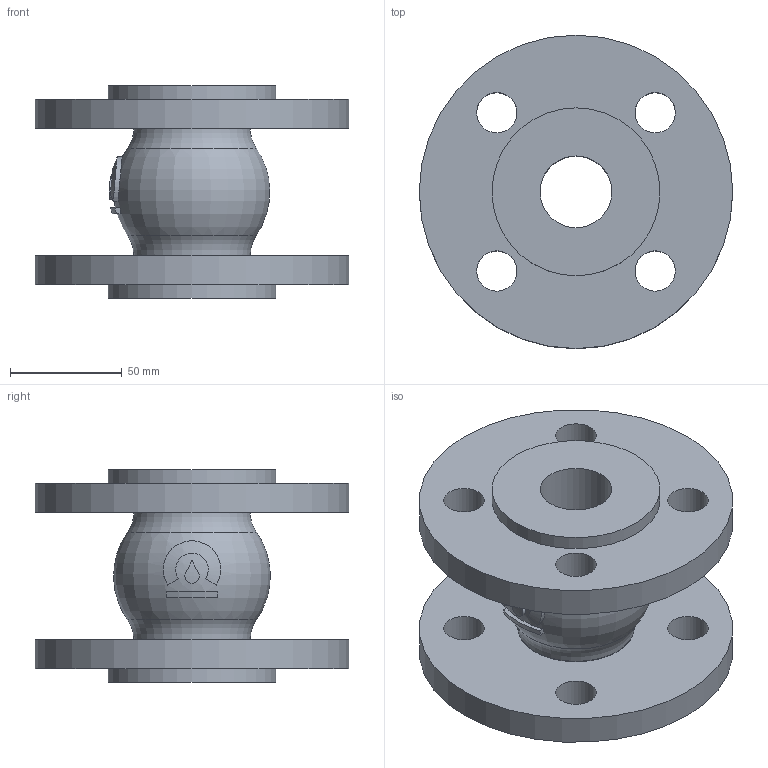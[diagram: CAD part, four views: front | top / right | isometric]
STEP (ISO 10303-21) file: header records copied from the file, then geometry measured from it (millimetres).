
FILE_DESCRIPTION(('STEP AP203'), '1');
FILE_NAME('Êîìïåíñàòîð KMS DN32 PN10_16', '', ('UNSPECIFIED'), ('UNSPECIFIED'), 'ASCON STEP Converter 1.6', 'ASCON Math Kernel', '');
FILE_SCHEMA(('CONFIG_CONTROL_DESIGN'));
Length unit declared in the file: millimetre
Bounding box: 140 x 140 x 95 mm (x, y, z)
Volume: 496205.9 mm3; surface area: 95618 mm2
Topology: 1 solids, 1 shells, 45 faces, 100 edges, 64 vertices
Faces by surface type: cylinder 23, plane 13, torus 9
Full cylindrical faces by diameter (mm): 18 x8, 32 x2, 52 x2, 75 x2, 140 x2
Entity records: 2192 total; most frequent: CARTESIAN_POINT 851, DIRECTION 190, ORIENTED_EDGE 156, EDGE_LOOP 92, AXIS2_PLACEMENT_3D 88, EDGE_CURVE 78, VERTEX_POINT 64, FACE_BOUND 48
